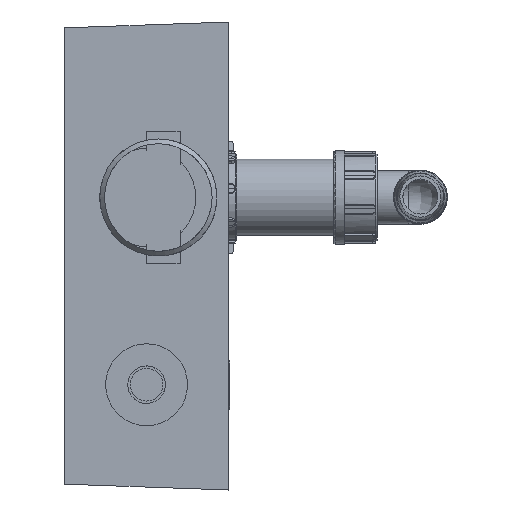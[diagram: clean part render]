
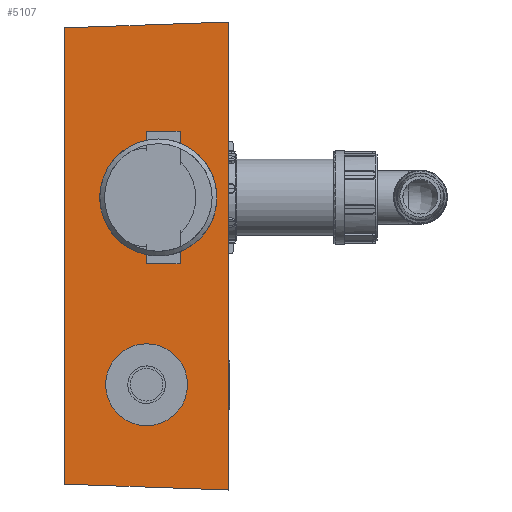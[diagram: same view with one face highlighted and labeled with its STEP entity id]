
A CAD part, front view. The second image highlights one B-rep face of the part: STEP entity #5107.
In plain terms, the highlighted planar face has unit normal (0, -1, 0).
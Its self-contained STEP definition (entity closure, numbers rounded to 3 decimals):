
#91=CIRCLE('',#5591,5.14);
#95=CIRCLE('',#5598,17.5);
#394=FACE_BOUND('',#878,.T.);
#395=FACE_BOUND('',#879,.T.);
#540=FACE_OUTER_BOUND('',#877,.T.);
#877=EDGE_LOOP('',(#3734,#3735,#3736,#3737));
#878=EDGE_LOOP('',(#3738));
#879=EDGE_LOOP('',(#3739));
#1359=LINE('',#8215,#1835);
#1360=LINE('',#8217,#1836);
#1361=LINE('',#8219,#1837);
#1362=LINE('',#8220,#1838);
#1835=VECTOR('',#6369,10.);
#1836=VECTOR('',#6370,10.);
#1837=VECTOR('',#6371,10.);
#1838=VECTOR('',#6372,10.);
#2276=VERTEX_POINT('',#8198);
#2280=VERTEX_POINT('',#8209);
#2281=VERTEX_POINT('',#8213);
#2282=VERTEX_POINT('',#8214);
#2283=VERTEX_POINT('',#8216);
#2284=VERTEX_POINT('',#8218);
#2813=EDGE_CURVE('',#2276,#2276,#91,.T.);
#2817=EDGE_CURVE('',#2280,#2280,#95,.T.);
#2818=EDGE_CURVE('',#2281,#2282,#1359,.T.);
#2819=EDGE_CURVE('',#2283,#2282,#1360,.T.);
#2820=EDGE_CURVE('',#2283,#2284,#1361,.T.);
#2821=EDGE_CURVE('',#2284,#2281,#1362,.T.);
#3734=ORIENTED_EDGE('',*,*,#2818,.T.);
#3735=ORIENTED_EDGE('',*,*,#2819,.F.);
#3736=ORIENTED_EDGE('',*,*,#2820,.T.);
#3737=ORIENTED_EDGE('',*,*,#2821,.T.);
#3738=ORIENTED_EDGE('',*,*,#2813,.T.);
#3739=ORIENTED_EDGE('',*,*,#2817,.T.);
#4841=PLANE('',#5600);
#5107=ADVANCED_FACE('',(#540,#394,#395),#4841,.T.);
#5591=AXIS2_PLACEMENT_3D('',#8199,#6349,#6350);
#5598=AXIS2_PLACEMENT_3D('',#8210,#6363,#6364);
#5600=AXIS2_PLACEMENT_3D('',#8212,#6367,#6368);
#6349=DIRECTION('center_axis',(0.,1.,0.));
#6350=DIRECTION('ref_axis',(-1.,0.,0.));
#6363=DIRECTION('center_axis',(0.,1.,0.));
#6364=DIRECTION('ref_axis',(-1.,0.,0.));
#6367=DIRECTION('center_axis',(0.,-1.,0.));
#6368=DIRECTION('ref_axis',(0.,0.,-1.));
#6369=DIRECTION('',(0.999,0.,-0.036));
#6370=DIRECTION('',(0.,0.,-1.));
#6371=DIRECTION('',(-0.999,0.,-0.036));
#6372=DIRECTION('',(0.,0.,-1.));
#8198=CARTESIAN_POINT('',(40.14,-270.,-75.));
#8199=CARTESIAN_POINT('Origin',(35.,-270.,-75.));
#8209=CARTESIAN_POINT('',(52.5,-270.,-155.));
#8210=CARTESIAN_POINT('Origin',(35.,-270.,-155.));
#8212=CARTESIAN_POINT('Origin',(0.,-270.,0.));
#8213=CARTESIAN_POINT('',(0.,-270.,-197.5));
#8214=CARTESIAN_POINT('',(70.,-270.,-200.));
#8215=CARTESIAN_POINT('',(31.478,-270.,-198.624));
#8216=CARTESIAN_POINT('',(70.,-270.,0.));
#8217=CARTESIAN_POINT('',(70.,-270.,0.));
#8218=CARTESIAN_POINT('',(0.,-270.,-2.5));
#8219=CARTESIAN_POINT('',(35.045,-270.,-1.248));
#8220=CARTESIAN_POINT('',(0.,-270.,0.));
